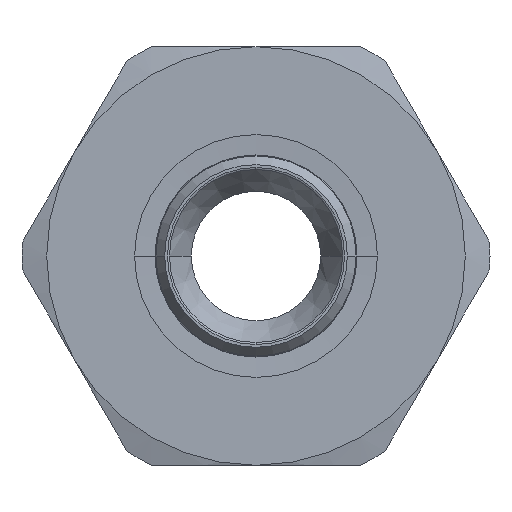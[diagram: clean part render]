
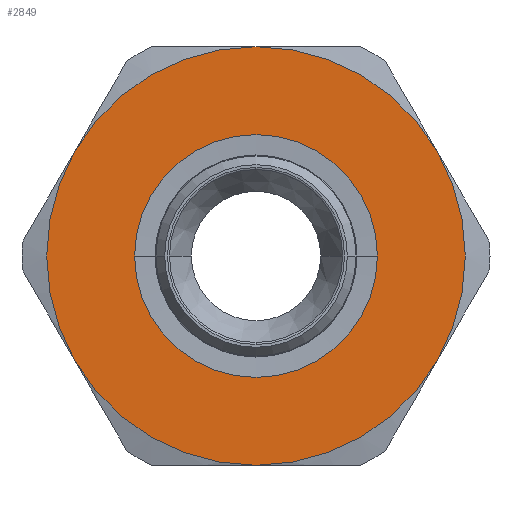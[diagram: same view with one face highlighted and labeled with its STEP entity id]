
A CAD part, left-side view. The second image highlights one B-rep face of the part: STEP entity #2849.
In plain terms, the highlighted planar face has unit normal (-1, 0, 0) as drawn and (0, 0, 1) by its records, which use the part's own axes.
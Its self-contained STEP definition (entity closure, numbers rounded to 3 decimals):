
#1176=CARTESIAN_POINT('',(0.,-15.95,7.));
#1177=VERTEX_POINT('',#1176);
#1193=CARTESIAN_POINT('',(0.,15.95,7.0));
#1194=VERTEX_POINT('',#1193);
#1201=CARTESIAN_POINT('',(0.,0.,7.0));
#1202=DIRECTION('',(0.0,0.0,-1.0));
#1203=DIRECTION('',(0.0,-1.0,0.0));
#1204=AXIS2_PLACEMENT_3D('',#1201,#1202,#1203);
#1205=CIRCLE('',#1204,15.95);
#1206=EDGE_CURVE('',#1177,#1194,#1205,.T.);
#1663=CARTESIAN_POINT('',(0.,0.,7.0));
#1664=DIRECTION('',(0.0,0.0,-1.0));
#1665=DIRECTION('',(0.0,-1.0,0.0));
#1666=AXIS2_PLACEMENT_3D('',#1663,#1664,#1665);
#1667=CIRCLE('',#1666,15.95);
#1668=EDGE_CURVE('',#1194,#1177,#1667,.T.);
#2222=CARTESIAN_POINT('',(13.75,-23.816,7.));
#2223=VERTEX_POINT('',#2222);
#2237=CARTESIAN_POINT('',(-13.75,-23.816,7.));
#2238=VERTEX_POINT('',#2237);
#2239=CARTESIAN_POINT('',(0.,0.0,7.0));
#2240=DIRECTION('',(0.0,0.0,1.0));
#2241=DIRECTION('',(1.0,0.0,0.0));
#2242=AXIS2_PLACEMENT_3D('',#2239,#2240,#2241);
#2243=CIRCLE('',#2242,27.5);
#2244=EDGE_CURVE('',#2238,#2223,#2243,.T.);
#2322=CARTESIAN_POINT('',(-27.5,0.,7.));
#2323=VERTEX_POINT('',#2322);
#2324=CARTESIAN_POINT('',(0.,0.0,7.0));
#2325=DIRECTION('',(0.0,0.0,1.0));
#2326=DIRECTION('',(1.0,0.0,0.0));
#2327=AXIS2_PLACEMENT_3D('',#2324,#2325,#2326);
#2328=CIRCLE('',#2327,27.5);
#2329=EDGE_CURVE('',#2323,#2238,#2328,.T.);
#2406=CARTESIAN_POINT('',(-13.75,23.816,7.));
#2407=VERTEX_POINT('',#2406);
#2408=CARTESIAN_POINT('',(0.,0.0,7.0));
#2409=DIRECTION('',(0.0,0.0,1.0));
#2410=DIRECTION('',(1.0,0.0,0.0));
#2411=AXIS2_PLACEMENT_3D('',#2408,#2409,#2410);
#2412=CIRCLE('',#2411,27.5);
#2413=EDGE_CURVE('',#2407,#2323,#2412,.T.);
#2490=CARTESIAN_POINT('',(13.75,23.816,7.));
#2491=VERTEX_POINT('',#2490);
#2492=CARTESIAN_POINT('',(0.,0.0,7.0));
#2493=DIRECTION('',(0.0,0.0,1.0));
#2494=DIRECTION('',(1.0,0.0,0.0));
#2495=AXIS2_PLACEMENT_3D('',#2492,#2493,#2494);
#2496=CIRCLE('',#2495,27.5);
#2497=EDGE_CURVE('',#2491,#2407,#2496,.T.);
#2575=CARTESIAN_POINT('',(27.5,0.0,7.));
#2576=VERTEX_POINT('',#2575);
#2577=CARTESIAN_POINT('',(0.,0.0,7.0));
#2578=DIRECTION('',(0.0,0.0,1.0));
#2579=DIRECTION('',(1.0,0.0,0.0));
#2580=AXIS2_PLACEMENT_3D('',#2577,#2578,#2579);
#2581=CIRCLE('',#2580,27.5);
#2582=EDGE_CURVE('',#2576,#2491,#2581,.T.);
#2659=CARTESIAN_POINT('',(0.,0.0,7.0));
#2660=DIRECTION('',(0.0,0.0,1.0));
#2661=DIRECTION('',(1.0,0.0,0.0));
#2662=AXIS2_PLACEMENT_3D('',#2659,#2660,#2661);
#2663=CIRCLE('',#2662,27.5);
#2664=EDGE_CURVE('',#2223,#2576,#2663,.T.);
#2832=CARTESIAN_POINT('',(0.,0.,7.0));
#2833=DIRECTION('',(0.0,0.0,1.0));
#2834=DIRECTION('',(1.0,0.0,0.0));
#2835=AXIS2_PLACEMENT_3D('',#2832,#2833,#2834);
#2836=PLANE('',#2835);
#2837=ORIENTED_EDGE('',*,*,#2664,.T.);
#2838=ORIENTED_EDGE('',*,*,#2582,.T.);
#2839=ORIENTED_EDGE('',*,*,#2497,.T.);
#2840=ORIENTED_EDGE('',*,*,#2413,.T.);
#2841=ORIENTED_EDGE('',*,*,#2329,.T.);
#2842=ORIENTED_EDGE('',*,*,#2244,.T.);
#2843=EDGE_LOOP('',(#2837,#2838,#2839,#2840,#2841,#2842));
#2844=FACE_OUTER_BOUND('',#2843,.T.);
#2845=ORIENTED_EDGE('',*,*,#1206,.T.);
#2846=ORIENTED_EDGE('',*,*,#1668,.T.);
#2847=EDGE_LOOP('',(#2845,#2846));
#2848=FACE_BOUND('',#2847,.T.);
#2849=ADVANCED_FACE('',(#2844,#2848),#2836,.T.);
